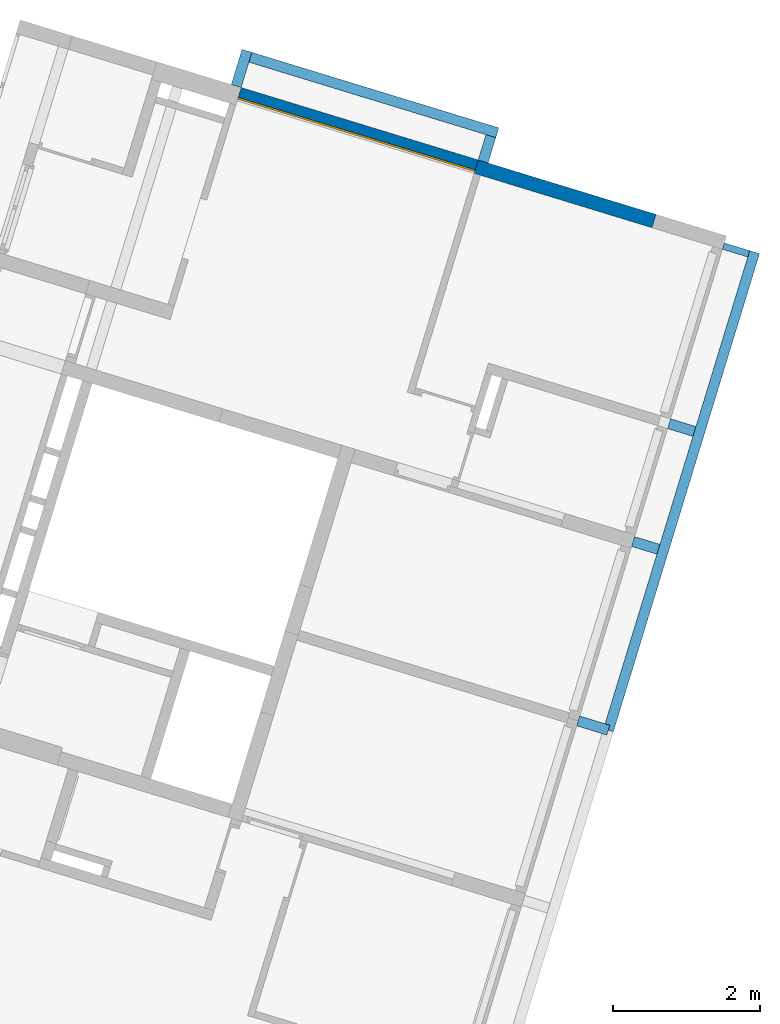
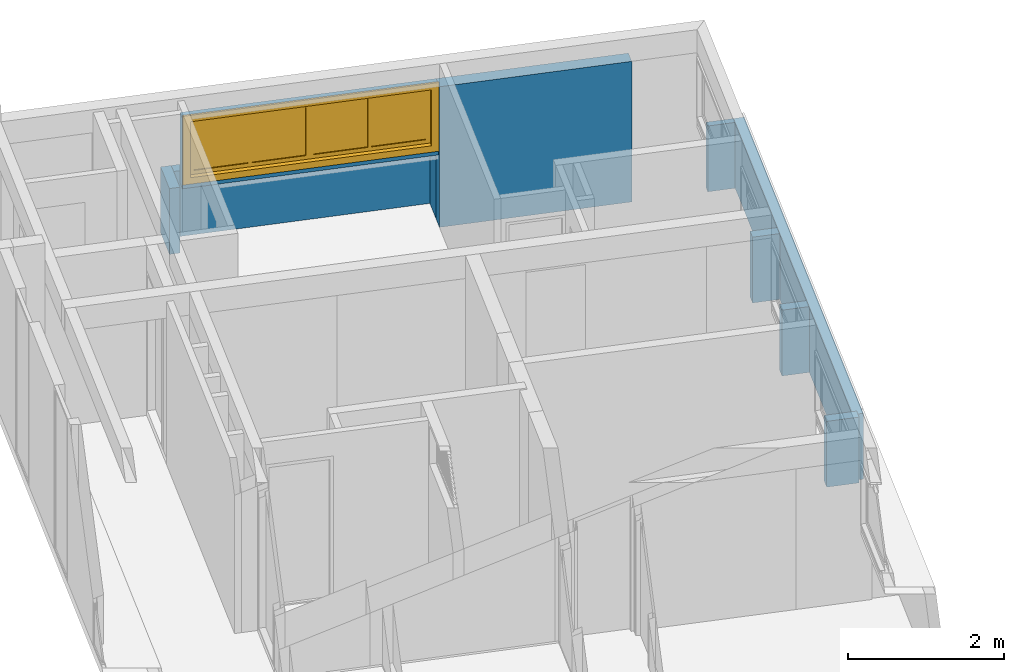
# One storey, part 16 of 18: 10 walls, 1 window, 1 opening.
"""IFC2X3 building model written with IfcOpenShell, lengths in millimetres."""

from ifc_helpers import new_model, entity, si_unit, converted_unit, derived_unit, money_unit, direction, frame, origin_with_axes, place, context, subcontext, project, spatial, open_shell, faceted_brep, surface_model, material, type_object, element, fill, save


model = new_model("IFC2X3")

# Units and contexts
model_context = context("Model", 3, precision=0.01, world=origin_with_axes(), true_north=direction((0.0, 1.0)))
body_context = subcontext(model_context, "Body", "Model", "MODEL_VIEW")
ifc_project = project(units=[si_unit("LENGTHUNIT", "METRE", prefix="MILLI"), si_unit("AREAUNIT", "SQUARE_METRE"), si_unit("VOLUMEUNIT", "CUBIC_METRE"), converted_unit("PLANEANGLEUNIT", "DEGREE", entity("IfcPlaneAngleMeasure", 0.0174532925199), si_unit("PLANEANGLEUNIT", "RADIAN"), dimensions=[0, 0, 0, 0, 0, 0, 0]), money_unit("USD"), converted_unit("TIMEUNIT", "Year", entity("IfcTimeMeasure", 31556926.0), si_unit("TIMEUNIT", "SECOND"), dimensions=[0, 0, 1, 0, 0, 0, 0]), si_unit("MASSUNIT", "GRAM", prefix="KILO"), si_unit("THERMODYNAMICTEMPERATUREUNIT", "DEGREE_CELSIUS"), si_unit("LUMINOUSINTENSITYUNIT", "LUMEN"), si_unit("ENERGYUNIT", "JOULE", prefix="MEGA"), derived_unit("THERMALCONDUCTANCEUNIT", [(si_unit("POWERUNIT", "WATT"), 1), (si_unit("LENGTHUNIT", "METRE"), -1), (si_unit("THERMODYNAMICTEMPERATUREUNIT", "KELVIN"), -1)]), derived_unit("SPECIFICHEATCAPACITYUNIT", [(si_unit("ENERGYUNIT", "JOULE"), 1), (si_unit("MASSUNIT", "GRAM", prefix="KILO"), -1), (si_unit("THERMODYNAMICTEMPERATUREUNIT", "KELVIN"), -1)]), derived_unit("MASSDENSITYUNIT", [(si_unit("MASSUNIT", "GRAM", prefix="KILO"), 1), (si_unit("VOLUMEUNIT", "CUBIC_METRE"), -1)])], contexts=[model_context])

# Site, building, storey, space
site_placement = place(None, frame((0.0, 0.0, 0.0), z_axis=(0.0, 0.0, 1.0), x_axis=(0.956304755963, -0.292371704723, 0.0)))
site = spatial("IfcSite", under=ifc_project, at=site_placement, Name="Site", CompositionType="ELEMENT")
building_placement = place(site_placement, origin_with_axes())
building = spatial("IfcBuilding", under=site, at=building_placement, Name="Building", CompositionType="ELEMENT")
storey_placement = place(building_placement, origin_with_axes())
storey = spatial("IfcBuildingStorey", under=building, at=storey_placement, Name="Pavimento tipo", CompositionType="ELEMENT", Elevation=0.0)
space_placement = place(storey_placement, frame((1481.71158317, 24839.9981298, 0.0), z_axis=(0.0, 0.0, 1.0), x_axis=(1.0, -1.55460451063e-08, 0.0)))
space = spatial("IfcSpace", under=storey, at=space_placement, Name="04", CompositionType="ELEMENT", InteriorOrExteriorSpace="INTERNAL")

# Walls
ifc_material = material(Name="Tijolo - Estrutural")
wall_type_1 = type_object("IfcWallType", Name="Tijolo - Estrutural 90", PredefinedType="NOTDEFINED")
wall_1_placement = place(space_placement, frame((7960.00057055, 4149.98666018, 0.0), z_axis=(0.0, 0.0, 1.0), x_axis=(0.999999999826, 1.8671459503e-05, 0.0)))
element("IfcWall", 1, at=wall_1_placement, inside=space, type_object=wall_type_1, material=ifc_material, Name="Apt 04 - Parede 42", context=body_context, shape_type="Brep", body=[
    faceted_brep([(0.0, 0.0, 1030.0), (0.0, -90.0, 1030.0), (359.999551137, -90.0, 1030.0), (360.001230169, 0.0, 1030.0), (0.0, 0.0, 0.0), (0.0, -90.0, 0.0), (359.999551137, -90.0, 0.0), (360.001230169, 0.0, 0.0)], [[[0, 1, 2, 3]], [[0, 4, 5, 1]], [[1, 5, 6, 2]], [[6, 7, 3, 2]], [[4, 0, 3, 7]], [[5, 4, 7, 6]]]),
])
wall_type_2 = type_object("IfcWallType", Name="Tijolo - Estrutural 140", PredefinedType="NOTDEFINED")
wall_2_placement = place(storey_placement, frame((9941.71344835, 28989.9939942, 0.0), z_axis=(0.0, 0.0, 1.0), x_axis=(0.0, -1.0, 0.0)))
element("IfcWall", 2, at=wall_2_placement, inside=storey, type_object=wall_type_2, material=ifc_material, Name="Apt 04 - Parede 58", context=body_context, shape_type="Brep", body=[
    faceted_brep([(0.00261182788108, -140.0, 1030.0), (6795.00930964, -140.0, 1030.0), (6795.00930964, 0.0, 1030.0), (0.0, 0.0, 1030.0), (0.00261182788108, -140.0, 0.0), (6795.00930964, -140.0, 0.0), (6795.00930964, 0.0, 0.0), (0.0, 0.0, 0.0)], [[[0, 1, 2, 3]], [[4, 5, 1, 0]], [[2, 1, 5, 6]], [[3, 2, 6, 7]], [[4, 0, 3, 7]], [[7, 6, 5, 4]]]),
])
wall_3_placement = place(space_placement, frame((7960.00130139, 1649.99202827, 0.0), z_axis=(0.0, 0.0, 1.0), x_axis=(1.0, 1.55460451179e-08, 0.0)))
element("IfcWall", 3, at=wall_3_placement, inside=space, type_object=wall_type_2, material=ifc_material, Name="Apt 04 - Parede 43", context=body_context, shape_type="Brep", body=[
    faceted_brep([(360.00053813, -140.0, 1030.0), (360.00053813, 0.0, 1030.0), (0.0, 0.0, 1030.0), (0.0, -140.0, 1030.0), (360.00053813, -140.0, 0.0), (360.00053813, 0.0, 0.0), (0.0, 0.0, 0.0), (0.0, -140.0, 0.0)], [[[0, 1, 2, 3]], [[1, 0, 4, 5]], [[1, 5, 6, 2]], [[7, 3, 2, 6]], [[4, 0, 3, 7]], [[5, 4, 7, 6]]]),
])
wall_4_placement = place(space_placement, frame((1059.99932602, 4749.9921665, 0.0), z_axis=(0.0, 0.0, 1.0), x_axis=(1.0, 1.69992982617e-08, 0.0)))
element("IfcWall", 4, at=wall_4_placement, inside=space, type_object=wall_type_2, material=ifc_material, Name="Apt 04 - Parede 26", context=body_context, shape_type="Brep", body=[
    faceted_brep([(3510.0001812, -140.000005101, 1030.0), (3510.00018141, -5.10091879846e-06, 1030.0), (0.0, 0.0, 1030.0), (-1.95606641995e-07, -140.0, 1030.0), (3510.0001812, -140.000005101, 0.0), (3510.00018141, -5.10091879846e-06, 0.0), (0.0, 0.0, 0.0), (-1.95606641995e-07, -140.0, 0.0)], [[[0, 1, 2, 3]], [[1, 0, 4, 5]], [[1, 5, 6, 2]], [[7, 3, 2, 6]], [[4, 0, 3, 7]], [[5, 4, 7, 6]]]),
])
wall_5_placement = place(space_placement, frame((7960.00154693, -95.007995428, 0.0), z_axis=(0.0, 0.0, 1.0), x_axis=(1.0, 1.55460451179e-08, 0.0)))
element("IfcWall", 5, at=wall_5_placement, inside=space, type_object=wall_type_2, material=ifc_material, Name="Apt 04 - Parede 44", context=body_context, shape_type="Brep", body=[
    faceted_brep([(0.0, -70.0, 1030.0), (360.000319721, -70.0, 1030.0), (360.000319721, 70.0, 1030.0), (0.0, 70.0, 1030.0), (0.0, -70.0, 0.0), (360.000319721, -70.0, 0.0), (360.000319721, 70.0, 0.0), (0.0, 70.0, 0.0)], [[[0, 1, 2, 3]], [[4, 5, 1, 0]], [[6, 2, 1, 5]], [[3, 2, 6, 7]], [[7, 4, 0, 3]], [[7, 6, 5, 4]]]),
])
wall_6_placement = place(space_placement, frame((4569.99950742, 4749.99222617, 0.0), z_axis=(0.0, 0.0, 1.0), x_axis=(1.55460451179e-08, -1.0, 0.0)))
element("IfcWall", 6, at=wall_6_placement, inside=space, type_object=wall_type_2, material=ifc_material, Name="Apt 04 - Parede 27", context=body_context, shape_type="Brep", body=[
    faceted_brep([(500.000250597, -140.0, 1030.0), (500.000250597, 0.0, 1030.0), (140.0, 0.0, 1030.0), (140.000000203, -140.0, 1030.0), (500.000250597, -140.0, 0.0), (500.000250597, 0.0, 0.0), (140.0, 0.0, 0.0), (140.000000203, -140.0, 0.0)], [[[0, 1, 2, 3]], [[1, 0, 4, 5]], [[1, 5, 6, 2]], [[7, 3, 2, 6]], [[4, 0, 3, 7]], [[5, 4, 7, 6]]]),
])

# Wall, opening, window
wall_7_placement = place(space_placement, frame((1060.0001446, 4249.99176059, 1100.0), z_axis=(0.0, 0.0, 1.0), x_axis=(1.0, 6.31473132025e-08, 0.0)))
wall_7 = element("IfcWall", 7, at=wall_7_placement, inside=space, type_object=wall_type_2, material=ifc_material, Name="Apt 04 - Parede 03", context=body_context, shape_type="Brep", body=[
    faceted_brep([(-6.66417765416e-06, -140.0, 0.0), (3370.00164785, -140.000160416, 0.0), (3370.00164785, -140.000160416, 1100.0), (-6.66417765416e-06, -140.0, 1100.0), (75.0043393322, -140.00000357, 150.0), (75.0043393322, -140.00000357, 1075.0), (3295.00433933, -140.000156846, 1075.0), (3295.00433933, -140.000156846, 150.0), (0.0, 0.0, 0.0), (3370.00165451, -0.000160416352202, 0.0), (3370.00165451, -0.000160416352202, 1100.0), (0.0, 0.0, 1100.0), (75.0043459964, -3.57029961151e-06, 150.0), (75.0043459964, -3.57029961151e-06, 1075.0), (3295.004346, -0.000156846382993, 1075.0), (3295.004346, -0.000156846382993, 150.0)], [[[0, 1, 2, 3], [4, 5, 6, 7]], [[8, 9, 1, 0]], [[10, 2, 1, 9]], [[3, 2, 10, 11]], [[0, 3, 11, 8]], [[5, 4, 12, 13]], [[14, 6, 5, 13]], [[15, 7, 6, 14]], [[4, 7, 15, 12]], [[11, 10, 9, 8], [15, 14, 13, 12]]]),
])
opening_placement = place(wall_7_placement, frame((1685.00433933, 0.0, 150.0), z_axis=(0.0, 0.0, 1.0), x_axis=(1.0, 0.0, 0.0)))
opening = element("IfcOpeningElement", 8, at=opening_placement, cuts=wall_7, Name="Apt 04 - J06", context=body_context, shape_type="Brep", body=[
    faceted_brep([(1684.99999995, -141.000160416, 1000.0), (-1685.00000005, -141.0, 1000.0), (-1685.00000005, -141.0, -75.0), (1684.99999995, -141.000160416, -75.0), (1685.0, -140.000160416, 1000.0), (-1685.0, -140.0, 1000.0), (-1685.0, -140.0, -75.0), (1685.0, -140.000160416, -75.0), (1610.0, -140.000156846, 0.0), (1610.0, -140.000156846, 925.0), (-1610.0, -140.00000357, 925.0), (-1610.0, -140.00000357, 0.0), (1610.00000428, -50.0001568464, 0.0), (1610.00000428, -50.0001568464, 925.0), (1610.00000671, 1.00000356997, 925.0), (-1609.99999329, 1.00015684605, 925.0), (-1609.99999572, -50.0000035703, 925.0), (-1609.99999572, -50.0000035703, 0.0), (-1609.99999329, 1.00015684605, 0.0), (1610.00000671, 1.00000356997, 0.0)], [[[0, 1, 2, 3]], [[4, 5, 1, 0]], [[5, 6, 2, 1]], [[6, 7, 3, 2]], [[7, 4, 0, 3]], [[6, 5, 4, 7], [8, 9, 10, 11]], [[9, 8, 12, 13]], [[10, 9, 13, 14, 15, 16]], [[11, 10, 16, 17]], [[8, 11, 17, 18, 19, 12]], [[13, 12, 19, 14]], [[14, 19, 18, 15]], [[17, 16, 15, 18]]]),
])
window_style = type_object("IfcWindowStyle", Name="Janela de Correr 4-Folhas 26", ConstructionType="NOTDEFINED", OperationType="USERDEFINED", ParameterTakesPrecedence=False, Sizeable=False)
window_placement = place(opening_placement, frame((1610.0, 0.0, 0.0), z_axis=(0.0, 0.0, 1.0), x_axis=(-1.0, 0.0, 0.0)))
window = element("IfcWindow", 9, at=window_placement, inside=space, type_object=window_style, Name="Apt 04 - J06", OverallHeight=925.0, OverallWidth=3220.0, context=body_context, shape_type="SurfaceModel", body=[
    faceted_brep([(-1.90404580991e-06, 100.000156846, 0.0), (0.0, 140.000156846, 0.0), (3220.0, 140.00000357, 0.0), (3219.9999981, 100.00000357, 0.0), (-1.90404580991e-06, 100.000156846, 925.0), (0.0, 140.000156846, 925.0), (3220.0, 140.00000357, 925.0), (25.0, 140.000155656, 25.0), (3195.0, 140.00000476, 25.0), (3195.0, 140.00000476, 900.0), (25.0, 140.000155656, 900.0), (3219.9999981, 100.00000357, 925.0), (24.999998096, 100.000155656, 25.0), (24.999998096, 100.000155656, 900.0), (3194.9999981, 100.00000476, 900.0), (3194.9999981, 100.00000476, 25.0)], [[[0, 1, 2, 3]], [[4, 5, 1, 0]], [[1, 5, 6, 2], [7, 8, 9, 10]], [[3, 2, 6, 11]], [[0, 3, 11, 4], [12, 13, 14, 15]], [[11, 6, 5, 4]], [[15, 8, 7, 12]], [[14, 9, 8, 15]], [[13, 10, 9, 14]], [[12, 7, 10, 13]]]),
    faceted_brep([(-74.99999881, 165.000160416, -75.0), (25.00000119, 165.000155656, 25.0), (25.0, 140.000155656, 25.0), (-75.0, 140.000160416, -75.0), (-74.99999881, 165.000160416, 1000.0), (25.00000119, 165.000155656, 900.0), (25.0, 140.000155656, 900.0), (-75.0, 140.000160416, 1000.0)], [[[0, 1, 2, 3]], [[0, 4, 5, 1]], [[1, 5, 6, 2]], [[3, 2, 6, 7]], [[4, 0, 3, 7]], [[5, 4, 7, 6]]]),
    faceted_brep([(3295.00000119, 165.0, 1000.0), (3195.00000119, 165.00000476, 900.0), (3195.0, 140.00000476, 900.0), (3295.0, 140.0, 1000.0), (3295.00000119, 165.0, -75.0), (3195.00000119, 165.00000476, 25.0), (3195.0, 140.00000476, 25.0), (3295.0, 140.0, -75.0)], [[[0, 1, 2, 3]], [[0, 4, 5, 1]], [[1, 5, 6, 2]], [[3, 2, 6, 7]], [[4, 0, 3, 7]], [[5, 4, 7, 6]]]),
    faceted_brep([(3295.00000119, 165.0, -75.0), (3195.00000119, 165.00000476, 25.0), (3195.0, 140.00000476, 25.0), (3295.0, 140.0, -75.0), (-74.99999881, 165.000160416, -75.0), (25.00000119, 165.000155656, 25.0), (25.0, 140.000155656, 25.0), (-75.0, 140.000160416, -75.0)], [[[0, 1, 2, 3]], [[0, 4, 5, 1]], [[1, 5, 6, 2]], [[3, 2, 6, 7]], [[4, 0, 3, 7]], [[5, 4, 7, 6]]]),
    faceted_brep([(-74.99999881, 165.000160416, 1000.0), (25.00000119, 165.000155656, 900.0), (25.0, 140.000155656, 900.0), (-75.0, 140.000160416, 1000.0), (3295.00000119, 165.0, 1000.0), (3195.00000119, 165.00000476, 900.0), (3195.0, 140.00000476, 900.0), (3295.0, 140.0, 1000.0)], [[[0, 1, 2, 3]], [[0, 4, 5, 1]], [[1, 5, 6, 2]], [[3, 2, 6, 7]], [[4, 0, 3, 7]], [[5, 4, 7, 6]]]),
    faceted_brep([(84.9999957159, 50.0001528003, 85.0), (84.999998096, 100.0001528, 85.0), (84.999998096, 100.0001528, 840.0), (84.9999957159, 50.0001528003, 840.0), (-4.28410995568e-06, 50.0001568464, 85.0), (-1.90404580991e-06, 100.000156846, 85.0), (-1.90404580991e-06, 100.000156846, 840.0), (-4.28410995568e-06, 50.0001568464, 840.0)], [[[0, 1, 2, 3]], [[4, 5, 1, 0]], [[1, 5, 6, 2]], [[3, 2, 6, 7]], [[0, 3, 7, 4]], [[7, 6, 5, 4]]]),
    faceted_brep([(3219.99999572, 50.0000035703, 85.0), (3219.9999981, 100.00000357, 85.0), (3219.9999981, 100.00000357, 840.0), (3219.99999572, 50.0000035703, 840.0), (3134.99999572, 50.0000076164, 85.0), (3134.9999981, 100.000007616, 85.0), (3134.9999981, 100.000007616, 840.0), (3134.99999572, 50.0000076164, 840.0)], [[[0, 1, 2, 3]], [[4, 5, 1, 0]], [[1, 5, 6, 2]], [[3, 2, 6, 7]], [[0, 3, 7, 4]], [[7, 6, 5, 4]]]),
    faceted_brep([(3219.99999572, 50.0000035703, 85.0), (3219.9999981, 100.00000357, 85.0), (3134.9999981, 100.000007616, 85.0), (3134.99999572, 50.0000076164, 85.0), (3219.99999572, 50.0000035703, 0.0), (3219.9999981, 100.00000357, 0.0), (-1.90404580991e-06, 100.000156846, 0.0), (-1.90404580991e-06, 100.000156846, 85.0), (84.999998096, 100.0001528, 85.0), (797.499998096, 100.000118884, 85.0), (847.499998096, 100.000116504, 85.0), (1559.9999981, 100.000082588, 85.0), (1659.9999981, 100.000077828, 85.0), (2372.4999981, 100.000043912, 85.0), (2422.4999981, 100.000041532, 85.0), (2422.49999572, 50.0000415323, 85.0), (2372.49999572, 50.0000439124, 85.0), (1659.99999572, 50.0000778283, 85.0), (1559.99999572, 50.0000825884, 85.0), (847.499995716, 50.0001165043, 85.0), (797.499995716, 50.0001188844, 85.0), (84.9999957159, 50.0001528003, 85.0), (-4.28410995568e-06, 50.0001568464, 85.0), (-4.28410995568e-06, 50.0001568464, 0.0)], [[[0, 1, 2, 3]], [[4, 5, 1, 0]], [[1, 5, 6, 7, 8, 9, 10, 11, 12, 13, 14, 2]], [[3, 2, 14, 15]], [[0, 3, 15, 16, 17, 18, 19, 20, 21, 22, 23, 4]], [[23, 6, 5, 4]], [[22, 7, 6, 23]], [[21, 8, 7, 22]], [[20, 9, 8, 21]], [[19, 10, 9, 20]], [[18, 11, 10, 19]], [[17, 12, 11, 18]], [[16, 13, 12, 17]], [[15, 14, 13, 16]]]),
    faceted_brep([(3219.99999572, 50.0000035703, 925.0), (3219.9999981, 100.00000357, 925.0), (-1.90404580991e-06, 100.000156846, 925.0), (-4.28410995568e-06, 50.0001568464, 925.0), (3219.99999572, 50.0000035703, 840.0), (3219.9999981, 100.00000357, 840.0), (3134.9999981, 100.000007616, 840.0), (2422.4999981, 100.000041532, 840.0), (2372.4999981, 100.000043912, 840.0), (1659.9999981, 100.000077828, 840.0), (1559.9999981, 100.000082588, 840.0), (847.499998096, 100.000116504, 840.0), (797.499998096, 100.000118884, 840.0), (84.999998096, 100.0001528, 840.0), (-1.90404580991e-06, 100.000156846, 840.0), (-4.28410995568e-06, 50.0001568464, 840.0), (84.9999957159, 50.0001528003, 840.0), (797.499995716, 50.0001188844, 840.0), (847.499995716, 50.0001165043, 840.0), (1559.99999572, 50.0000825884, 840.0), (1659.99999572, 50.0000778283, 840.0), (2372.49999572, 50.0000439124, 840.0), (2422.49999572, 50.0000415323, 840.0), (3134.99999572, 50.0000076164, 840.0)], [[[0, 1, 2, 3]], [[4, 5, 1, 0]], [[1, 5, 6, 7, 8, 9, 10, 11, 12, 13, 14, 2]], [[3, 2, 14, 15]], [[0, 3, 15, 16, 17, 18, 19, 20, 21, 22, 23, 4]], [[23, 6, 5, 4]], [[22, 7, 6, 23]], [[21, 8, 7, 22]], [[20, 9, 8, 21]], [[19, 10, 9, 20]], [[18, 11, 10, 19]], [[17, 12, 11, 18]], [[16, 13, 12, 17]], [[15, 14, 13, 16]]]),
    faceted_brep([(797.499995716, 50.0001188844, 85.0), (797.499998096, 100.000118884, 85.0), (847.499998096, 100.000116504, 85.0), (847.499995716, 50.0001165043, 85.0), (797.499995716, 50.0001188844, 840.0), (797.499998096, 100.000118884, 840.0), (847.499998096, 100.000116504, 840.0), (847.499995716, 50.0001165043, 840.0)], [[[0, 1, 2, 3]], [[4, 5, 1, 0]], [[1, 5, 6, 2]], [[3, 2, 6, 7]], [[0, 3, 7, 4]], [[7, 6, 5, 4]]]),
    faceted_brep([(1559.99999572, 50.0000825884, 85.0), (1559.9999981, 100.000082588, 85.0), (1659.9999981, 100.000077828, 85.0), (1659.99999572, 50.0000778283, 85.0), (1559.99999572, 50.0000825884, 840.0), (1559.9999981, 100.000082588, 840.0), (1659.9999981, 100.000077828, 840.0), (1659.99999572, 50.0000778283, 840.0)], [[[0, 1, 2, 3]], [[4, 5, 1, 0]], [[1, 5, 6, 2]], [[3, 2, 6, 7]], [[0, 3, 7, 4]], [[7, 6, 5, 4]]]),
    faceted_brep([(2372.49999572, 50.0000439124, 85.0), (2372.4999981, 100.000043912, 85.0), (2422.4999981, 100.000041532, 85.0), (2422.49999572, 50.0000415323, 85.0), (2372.49999572, 50.0000439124, 840.0), (2372.4999981, 100.000043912, 840.0), (2422.4999981, 100.000041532, 840.0), (2422.49999572, 50.0000415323, 840.0)], [[[0, 1, 2, 3]], [[4, 5, 1, 0]], [[1, 5, 6, 2]], [[3, 2, 6, 7]], [[0, 3, 7, 4]], [[7, 6, 5, 4]]]),
    surface_model("IfcShellBasedSurfaceModel", [(84.9999964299, 65.0001528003, 85.0), (797.49999643, 65.0001188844, 85.0), (797.49999643, 65.0001188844, 840.0), (84.9999964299, 65.0001528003, 840.0)], [open_shell([[[0, 1, 2, 3]]])]),
    surface_model("IfcShellBasedSurfaceModel", [(84.9999973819, 85.0001528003, 85.0), (84.9999973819, 85.0001528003, 840.0), (797.499997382, 85.0001188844, 840.0), (797.499997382, 85.0001188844, 85.0)], [open_shell([[[0, 1, 2, 3]]])]),
    surface_model("IfcShellBasedSurfaceModel", [(847.49999643, 65.0001165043, 85.0), (1559.99999643, 65.0000825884, 85.0), (1559.99999643, 65.0000825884, 840.0), (847.49999643, 65.0001165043, 840.0)], [open_shell([[[0, 1, 2, 3]]])]),
    surface_model("IfcShellBasedSurfaceModel", [(847.499997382, 85.0001165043, 85.0), (847.499997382, 85.0001165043, 840.0), (1559.99999738, 85.0000825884, 840.0), (1559.99999738, 85.0000825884, 85.0)], [open_shell([[[0, 1, 2, 3]]])]),
    surface_model("IfcShellBasedSurfaceModel", [(1659.99999643, 65.0000778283, 85.0), (2372.49999643, 65.0000439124, 85.0), (2372.49999643, 65.0000439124, 840.0), (1659.99999643, 65.0000778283, 840.0)], [open_shell([[[0, 1, 2, 3]]])]),
    surface_model("IfcShellBasedSurfaceModel", [(1659.99999738, 85.0000778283, 85.0), (1659.99999738, 85.0000778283, 840.0), (2372.49999738, 85.0000439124, 840.0), (2372.49999738, 85.0000439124, 85.0)], [open_shell([[[0, 1, 2, 3]]])]),
    surface_model("IfcShellBasedSurfaceModel", [(2422.49999643, 65.0000415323, 85.0), (3134.99999643, 65.0000076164, 85.0), (3134.99999643, 65.0000076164, 840.0), (2422.49999643, 65.0000415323, 840.0)], [open_shell([[[0, 1, 2, 3]]])]),
    surface_model("IfcShellBasedSurfaceModel", [(2422.49999738, 85.0000415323, 85.0), (2422.49999738, 85.0000415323, 840.0), (3134.99999738, 85.0000076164, 840.0), (3134.99999738, 85.0000076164, 85.0)], [open_shell([[[0, 1, 2, 3]]])]),
])
fill(opening, window)

# Walls
wall_8_placement = place(storey_placement, frame((9441.80310771, 22194.9982891, 0.0), z_axis=(0.0, 0.0, 1.0), x_axis=(0.999999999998, 1.87376925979e-06, 0.0)))
element("IfcWall", 10, at=wall_8_placement, inside=storey, type_object=wall_type_2, material=ifc_material, Name="Parede 45", context=body_context, shape_type="Brep", body=[
    faceted_brep([(-0.000131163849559, -69.9999999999, 1030.0), (427.804026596, -70.0008016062, 1030.0), (427.804288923, 69.9991983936, 1030.0), (0.000131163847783, 69.9999999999, 1030.0), (-0.000131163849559, -69.9999999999, 0.0), (427.804026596, -70.0008016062, 0.0), (427.804288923, 69.9991983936, 0.0), (0.000131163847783, 69.9999999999, 0.0)], [[[0, 1, 2, 3]], [[4, 5, 1, 0]], [[2, 1, 5, 6]], [[3, 2, 6, 7]], [[4, 0, 3, 7]], [[7, 6, 5, 4]]]),
])
wall_9_placement = place(storey_placement, frame((2541.71098306, 29089.9900343, 0.0), z_axis=(0.0, 0.0, 1.0), x_axis=(0.0, 1.0, 0.0)))
element("IfcWall", 11, at=wall_9_placement, inside=storey, type_object=wall_type_2, material=ifc_material, Name="Apt 04 - Parede 25", context=body_context, shape_type="Brep", body=[
    faceted_brep([(0.0, 0.0, 1030.0), (500.000245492, -2.80322431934e-08, 1030.0), (500.000245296, 139.999999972, 1030.0), (7.84794451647e-09, 140.0, 1030.0), (0.0, 0.0, 0.0), (500.000245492, -2.80322431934e-08, 0.0), (500.000245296, 139.999999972, 0.0), (7.84794451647e-09, 140.0, 0.0)], [[[0, 1, 2, 3]], [[4, 5, 1, 0]], [[6, 2, 1, 5]], [[3, 2, 6, 7]], [[7, 4, 0, 3]], [[7, 6, 5, 4]]]),
])
wall_type_3 = type_object("IfcWallType", Name="Tijolo - Estrutural 190", PredefinedType="NOTDEFINED")
wall_10_placement = place(space_placement, frame((4430.0017991, 4249.99197339, 0.0), z_axis=(0.0, 0.0, 1.0), x_axis=(1.0, 1.55460451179e-08, 0.0)))
element("IfcWall", 12, at=wall_10_placement, inside=space, type_object=wall_type_3, material=ifc_material, Name="Apt 04 - Parede 04", context=body_context, shape_type="Brep", body=[
    faceted_brep([(0.00287193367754, -2.50111042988e-09, 1100.0), (0.0, 0.0, 2200.0), (2530.0, 0.0, 2200.0), (2530.0, 0.0, 0.0), (0.00287193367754, 0.0, 0.0), (0.00270657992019, -190.000000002, 1100.0), (0.0, -190.0, 2200.0), (2530.0, -190.0, 2200.0), (2530.0, -190.0, 0.0), (0.00270657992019, -190.0, 0.0)], [[[0, 1, 2, 3, 4]], [[0, 5, 6, 1]], [[1, 6, 7, 2]], [[2, 7, 8, 3]], [[9, 4, 3, 8]], [[5, 0, 4, 9]], [[9, 8, 7, 6, 5]]]),
])

save(model, "model.ifc")
